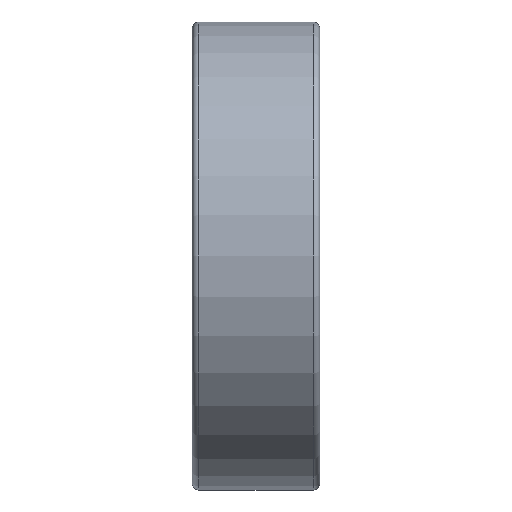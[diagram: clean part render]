
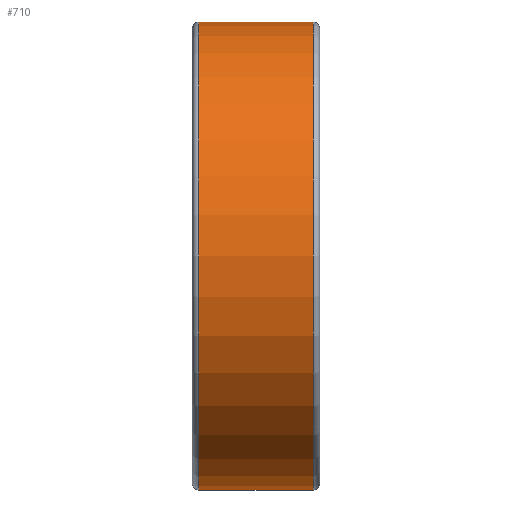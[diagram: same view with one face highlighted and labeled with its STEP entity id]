
A CAD part, front view. The second image highlights one B-rep face of the part: STEP entity #710.
In plain terms, the highlighted cylindrical face has radius 11 mm (diameter 22 mm), a full revolution.
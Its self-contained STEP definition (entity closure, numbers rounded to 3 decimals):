
#42=LINE('',#1365,#48);
#48=VECTOR('',#1116,11.);
#54=CYLINDRICAL_SURFACE('',#863,11.);
#124=FACE_OUTER_BOUND('',#182,.T.);
#182=EDGE_LOOP('',(#634,#635,#636,#637,#638,#639));
#270=CIRCLE('',#858,11.);
#271=CIRCLE('',#859,11.);
#274=CIRCLE('',#864,11.);
#275=CIRCLE('',#865,11.);
#374=VERTEX_POINT('',#1353);
#375=VERTEX_POINT('',#1354);
#377=VERTEX_POINT('',#1362);
#378=VERTEX_POINT('',#1363);
#463=EDGE_CURVE('',#374,#375,#270,.T.);
#464=EDGE_CURVE('',#375,#374,#271,.T.);
#467=EDGE_CURVE('',#377,#378,#274,.T.);
#468=EDGE_CURVE('',#377,#375,#42,.T.);
#469=EDGE_CURVE('',#378,#377,#275,.T.);
#634=ORIENTED_EDGE('',*,*,#467,.F.);
#635=ORIENTED_EDGE('',*,*,#468,.T.);
#636=ORIENTED_EDGE('',*,*,#463,.F.);
#637=ORIENTED_EDGE('',*,*,#464,.F.);
#638=ORIENTED_EDGE('',*,*,#468,.F.);
#639=ORIENTED_EDGE('',*,*,#469,.F.);
#710=ADVANCED_FACE('',(#124),#54,.T.);
#858=AXIS2_PLACEMENT_3D('',#1355,#1102,#1103);
#859=AXIS2_PLACEMENT_3D('',#1356,#1104,#1105);
#863=AXIS2_PLACEMENT_3D('',#1361,#1112,#1113);
#864=AXIS2_PLACEMENT_3D('',#1364,#1114,#1115);
#865=AXIS2_PLACEMENT_3D('',#1366,#1117,#1118);
#1102=DIRECTION('center_axis',(-1.,0.,0.));
#1103=DIRECTION('ref_axis',(0.,-1.,0.));
#1104=DIRECTION('center_axis',(-1.,0.,0.));
#1105=DIRECTION('ref_axis',(0.,-1.,0.));
#1112=DIRECTION('center_axis',(1.,0.,0.));
#1113=DIRECTION('ref_axis',(0.,1.,0.));
#1114=DIRECTION('center_axis',(1.,0.,0.));
#1115=DIRECTION('ref_axis',(0.,-1.,0.));
#1116=DIRECTION('',(-1.,0.,0.));
#1117=DIRECTION('center_axis',(1.,0.,0.));
#1118=DIRECTION('ref_axis',(0.,-1.,0.));
#1353=CARTESIAN_POINT('',(0.3,0.,11.));
#1354=CARTESIAN_POINT('',(0.3,-11.,0.));
#1355=CARTESIAN_POINT('Origin',(0.3,0.,0.));
#1356=CARTESIAN_POINT('Origin',(0.3,0.,0.));
#1361=CARTESIAN_POINT('Origin',(3.,0.,0.));
#1362=CARTESIAN_POINT('',(5.7,-11.,0.));
#1363=CARTESIAN_POINT('',(5.7,0.,11.));
#1364=CARTESIAN_POINT('Origin',(5.7,0.,0.));
#1365=CARTESIAN_POINT('',(3.,-11.,0.));
#1366=CARTESIAN_POINT('Origin',(5.7,0.,0.));
